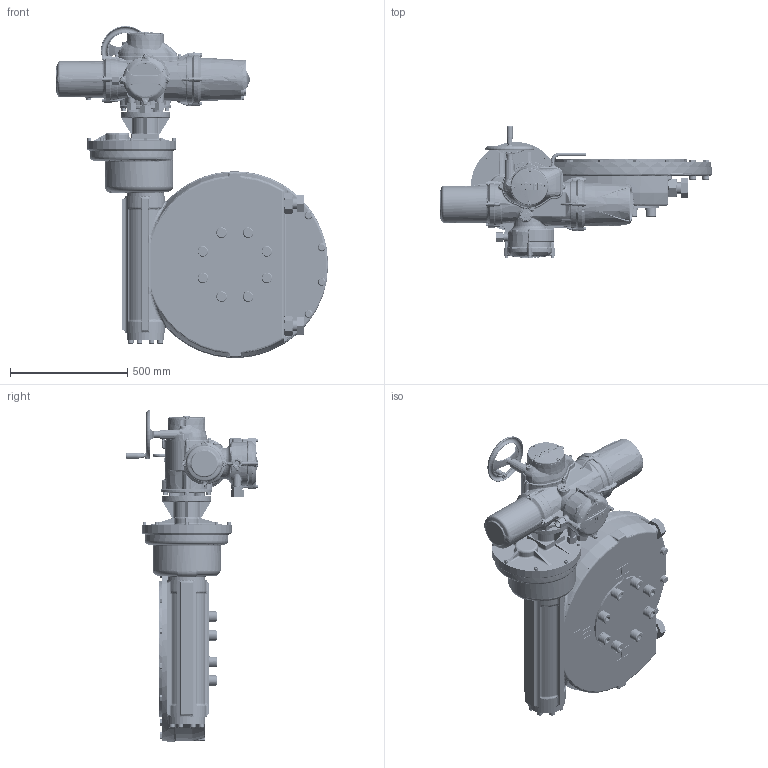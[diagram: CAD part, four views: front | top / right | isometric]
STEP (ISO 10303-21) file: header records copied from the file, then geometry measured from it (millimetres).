
FILE_DESCRIPTION( ( 'Unknown' ), '1' );
FILE_NAME( 'S:/Release/InstallationDrgs-IQmk3/Datasheets for Bishams release program/IQMK3 DATASHEETS/IQ3, IW4- 11 & 13/II3SHWIW115IR35STD-1.stp', 'Unknown', ( 'Unknown' ), ( 'Unknown' ), 'PSStep 16.0.42', 'Unknown', ' ' );
FILE_SCHEMA( ( 'AUTOMOTIVE_DESIGN { 1 0 10303 214 1 1 1 1 }' ) );
Length unit declared in the file: millimetre
Products named in the file (9): II3-01-std
Bounding box: 1160.05 x 563.65 x 1414 mm (x, y, z)
Volume: 503826.1 mm3; surface area: 3712053.5 mm2
Topology: 93 solids, 94 shells, 7817 faces, 19232 edges, 11466 vertices
Faces by surface type: bspline 2436, plane 2300, cylinder 1168, torus 775, cone 718, sphere 256, extrusion 128, revolution 21, offset 15
Full cylindrical faces by diameter (mm): 1.152 x1, 3 x8, 4.917 x6, 5.5 x1, 6 x3, 6.2 x2, 6.45 x8, 6.47 x8, 6.5 x1, 7 x4, 7.6 x4, 8 x21, 8.1 x1, 8.2 x1, 8.5 x4, 9.7 x2, 10 x9, 10.3 x8, 10.45 x4, 10.47 x4, 11.78 x1, 12 x4, 12.1 x1, 12.444 x1, 12.5 x4, 13 x13, 13.25 x8, 14 x1, 15.281 x1, 15.5 x1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
Entity records: 684045 total; most frequent: CARTESIAN_POINT 462846, ORIENTED_EDGE 35822, DIRECTION 28236, EDGE_CURVE 17911, AXIS2_PLACEMENT_3D 11765, VERTEX_POINT 11077, EDGE_LOOP 8753, FACE_OUTER_BOUND 8189
